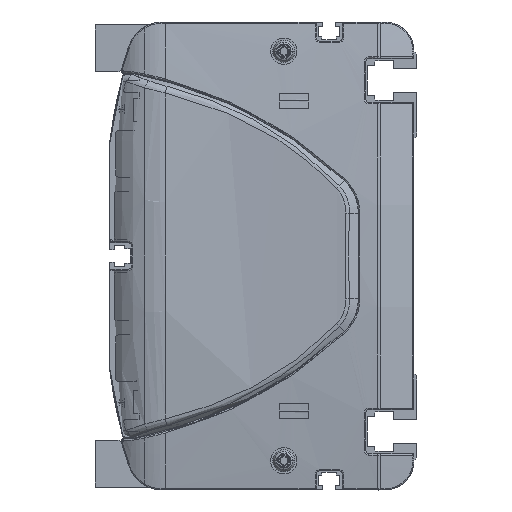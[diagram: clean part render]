
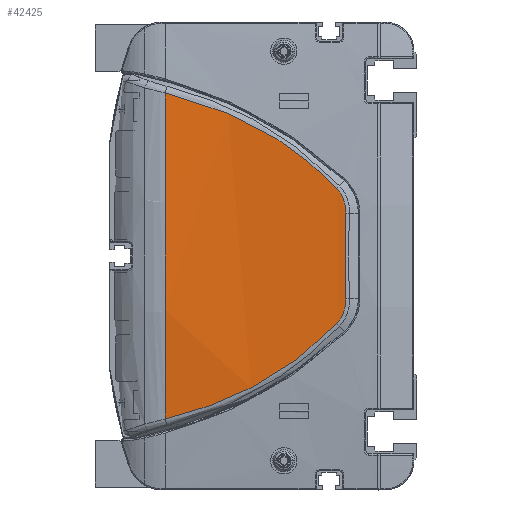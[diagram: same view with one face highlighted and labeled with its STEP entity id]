
A CAD part, left-side view. The second image highlights one B-rep face of the part: STEP entity #42425.
In plain terms, the highlighted cylindrical face has radius 600 mm (diameter 1200 mm), a partial arc.
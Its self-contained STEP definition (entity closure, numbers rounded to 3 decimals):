
#37706=CARTESIAN_POINT('',(-12.406,86.,
55.736));
#37707=CARTESIAN_POINT('',(-12.529,80.495,
54.41));
#37708=CARTESIAN_POINT('',(-12.828,69.636,
51.114));
#37709=CARTESIAN_POINT('',(-13.389,54.079,
44.179));
#37710=CARTESIAN_POINT('',(-14.01,39.709,
34.979));
#37711=CARTESIAN_POINT('',(-14.395,31.353,
27.243));
#37712=CARTESIAN_POINT('',(-14.555,27.451,
23.113));
#37714=CARTESIAN_POINT('',(-14.555,27.451,
23.113));
#37715=CARTESIAN_POINT('',(-14.598,26.394,
21.994));
#37716=CARTESIAN_POINT('',(-14.695,24.746,
19.315));
#37717=CARTESIAN_POINT('',(-14.783,24.276,
16.208));
#37718=CARTESIAN_POINT('',(-14.821,24.351,
14.67));
#37720=CARTESIAN_POINT('',(-14.821,24.351,
14.67));
#37721=CARTESIAN_POINT('',(-14.9,24.51,
11.413));
#37722=CARTESIAN_POINT('',(-15.007,24.721,
4.895));
#37723=CARTESIAN_POINT('',(-15.007,24.721,
-4.895));
#37724=CARTESIAN_POINT('',(-14.9,24.51,
-11.413));
#37725=CARTESIAN_POINT('',(-14.821,24.351,
-14.67));
#37727=CARTESIAN_POINT('',(-14.821,24.351,
-14.67));
#37728=CARTESIAN_POINT('',(-14.783,24.276,
-16.208));
#37729=CARTESIAN_POINT('',(-14.695,24.746,
-19.315));
#37730=CARTESIAN_POINT('',(-14.598,26.394,
-21.995));
#37731=CARTESIAN_POINT('',(-14.555,27.451,
-23.113));
#37733=CARTESIAN_POINT('',(-14.555,27.451,
-23.113));
#37734=CARTESIAN_POINT('',(-14.395,31.353,
-27.243));
#37735=CARTESIAN_POINT('',(-14.01,39.709,
-34.979));
#37736=CARTESIAN_POINT('',(-13.389,54.079,
-44.179));
#37737=CARTESIAN_POINT('',(-12.828,69.636,
-51.114));
#37738=CARTESIAN_POINT('',(-12.529,80.495,
-54.41));
#37739=CARTESIAN_POINT('',(-12.406,86.,
-55.736));
#37741=CARTESIAN_POINT('',(585.,86.,0.));
#37742=DIRECTION('',(0.,1.,0.));
#37743=DIRECTION('',(-0.996,0.,-0.093));
#37744=AXIS2_PLACEMENT_3D('',#37741,#37742,#37743);
#37757=CARTESIAN_POINT('',(-12.406,86.,
55.736));
#38551=VERTEX_POINT('',#37757);
#38552=CARTESIAN_POINT('',(-12.406,86.,
-55.736));
#38553=VERTEX_POINT('',#38552);
#38603=VERTEX_POINT('',#37712);
#38604=VERTEX_POINT('',#37718);
#38605=VERTEX_POINT('',#37725);
#38606=VERTEX_POINT('',#37731);
#42407=CARTESIAN_POINT('',(585.,87.45,0.));
#42408=DIRECTION('',(0.,-1.,0.));
#42409=DIRECTION('',(0.,0.,-1.));
#42410=AXIS2_PLACEMENT_3D('',#42407,#42408,#42409);
#42411=CYLINDRICAL_SURFACE('',#42410,600.);
#42413=ORIENTED_EDGE('',*,*,#42412,.T.);
#42415=ORIENTED_EDGE('',*,*,#42414,.T.);
#42416=ORIENTED_EDGE('',*,*,#42397,.T.);
#42418=ORIENTED_EDGE('',*,*,#42417,.T.);
#42420=ORIENTED_EDGE('',*,*,#42419,.T.);
#42422=ORIENTED_EDGE('',*,*,#42421,.T.);
#42423=EDGE_LOOP('',(#42413,#42415,#42416,#42418,#42420,#42422));
#42424=FACE_OUTER_BOUND('',#42423,.F.);
#42425=ADVANCED_FACE('',(#42424),#42411,.T.);
#37713=B_SPLINE_CURVE_WITH_KNOTS('',3,(#37706,#37707,#37708,#37709,#37710,
#37711,#37712),.UNSPECIFIED.,.F.,.F.,(4,1,1,1,4),(0.,0.25,0.5,0.75,
1.),.UNSPECIFIED.);
#37719=B_SPLINE_CURVE_WITH_KNOTS('',3,(#37714,#37715,#37716,#37717,#37718),
.UNSPECIFIED.,.F.,.F.,(4,1,4),(0.,0.5,1.),.UNSPECIFIED.);
#37726=B_SPLINE_CURVE_WITH_KNOTS('',3,(#37720,#37721,#37722,#37723,#37724,
#37725),.UNSPECIFIED.,.F.,.F.,(4,1,1,4),(0.,0.333,
0.667,1.),.UNSPECIFIED.);
#37732=B_SPLINE_CURVE_WITH_KNOTS('',3,(#37727,#37728,#37729,#37730,#37731),
.UNSPECIFIED.,.F.,.F.,(4,1,4),(0.,0.5,1.),.UNSPECIFIED.);
#37740=B_SPLINE_CURVE_WITH_KNOTS('',3,(#37733,#37734,#37735,#37736,#37737,
#37738,#37739),.UNSPECIFIED.,.F.,.F.,(4,1,1,1,4),(0.,0.25,0.5,0.75,
1.),.UNSPECIFIED.);
#37745=CIRCLE('',#37744,600.);
#42397=EDGE_CURVE('',#38604,#38605,#37726,.T.);
#42412=EDGE_CURVE('',#38551,#38603,#37713,.T.);
#42414=EDGE_CURVE('',#38603,#38604,#37719,.T.);
#42417=EDGE_CURVE('',#38605,#38606,#37732,.T.);
#42419=EDGE_CURVE('',#38606,#38553,#37740,.T.);
#42421=EDGE_CURVE('',#38553,#38551,#37745,.T.);
